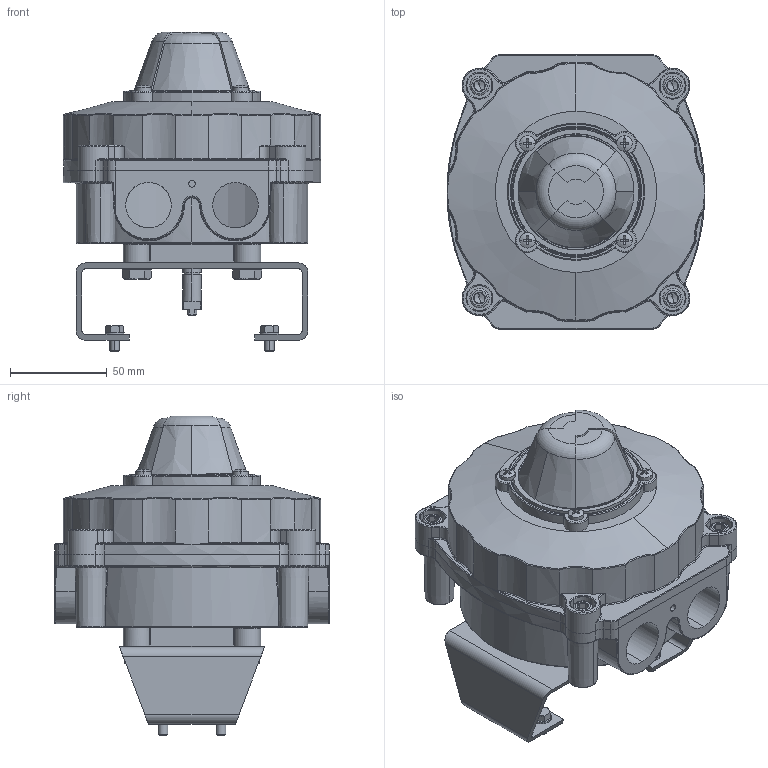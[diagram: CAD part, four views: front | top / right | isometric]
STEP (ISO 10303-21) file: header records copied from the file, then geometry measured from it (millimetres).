
FILE_DESCRIPTION((''),'2;1');
FILE_NAME('SB400','2024-12-04T11:36:21',('alfio.taboni'),('CDM Tecnoconsulting'),'CREO PARAMETRIC BY PTC INC, 2024063','CREO PARAMETRIC BY PTC INC, 2024063','');
FILE_SCHEMA(('CONFIG_CONTROL_DESIGN','SHAPE_APPEARANCE_LAYERS_GROUPS'));
Products named in the file (1): SB400
Bounding box: 133.5 x 142 x 165.5 mm (x, y, z)
Volume: 401662.4 mm3; surface area: 197881.5 mm2
Topology: 2 solids, 11 shells, 1754 faces, 4579 edges, 2856 vertices
Faces by surface type: cylinder 697, plane 452, torus 276, cone 166, bspline 61, extrusion 55, sphere 47
Entity records: 83871 total; most frequent: CARTESIAN_POINT 29102, ORIENTED_EDGE 8994, DIRECTION 8632, EDGE_CURVE 4498, AXIS2_PLACEMENT_3D 3502, VERTEX_POINT 2856, PRESENTATION_STYLE_ASSIGNMENT 2403, STYLED_ITEM 2403
